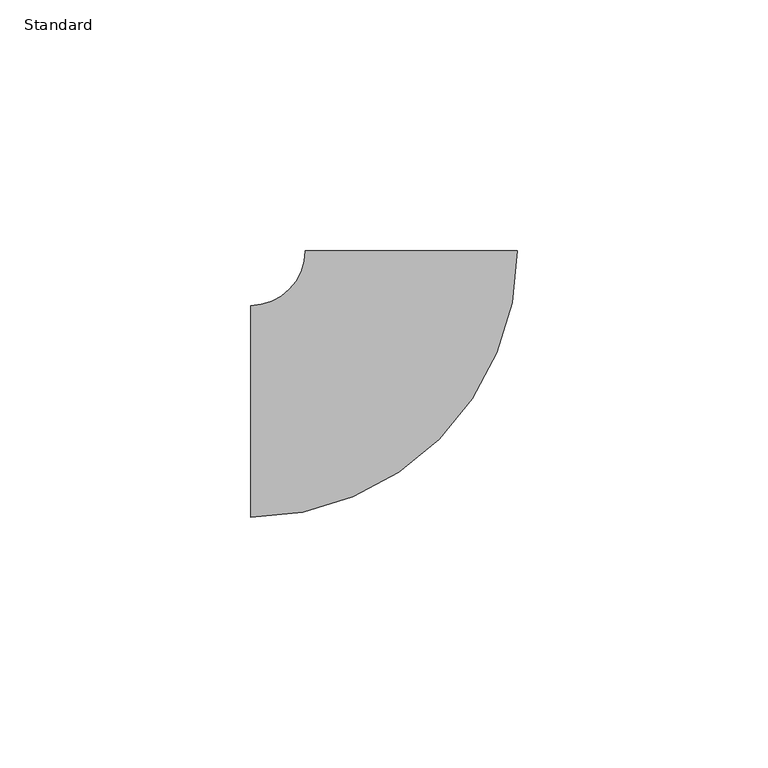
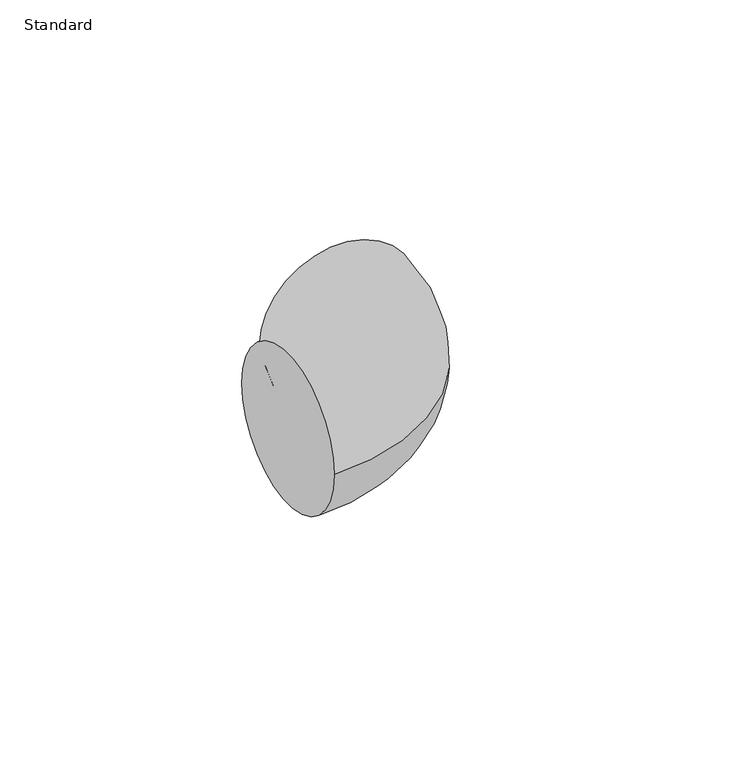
"""IFC4 building model written with IfcOpenShell, lengths in millimetres: pipe fitting geometry, Coude - Générique1 : Standard."""

from ifc_helpers import new_model, si_unit, point, frame, origin, place, context, project, spatial, circle_curve, ellipse_curve, trimmed, source, transform, mapped, element, save
from ifc_brep_helpers import plane_surface, revolved_surface, advanced_brep


def standard_ce3f984b(model_context):
    return source(origin(), model_context, "Body", "AdvancedBrep", [
        advanced_brep(
        [(-32.0, -21.1, 0.0), (-32.0, 21.1, 0.0), (21.1037945, 31.9974977, 0.0), (-21.0962052, 32.0025019, 0.0)],
        [
            (0, 1, circle_curve(frame((-32.0, 0.0, 0.0), z_axis=(-1.0, 0.0, 0.0), x_axis=(0.0, 1.0, 0.0)), 21.1)),
            (1, 0, circle_curve(frame((-32.0, 0.0, 0.0), z_axis=(-1.0, 0.0, 0.0), x_axis=(0.0, 1.0, 0.0)), 21.1)),
            (2, 3, circle_curve(frame((0.0037947, 31.9999998, 0.0), z_axis=(0.00011858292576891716, 0.9999999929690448, 0.0), x_axis=(-0.9999999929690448, 0.00011858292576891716, 0.0)), 21.1)),
            (3, 2, circle_curve(frame((0.0037947, 31.9999998, 0.0), z_axis=(0.00011858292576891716, 0.9999999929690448, 0.0), x_axis=(-0.9999999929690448, 0.00011858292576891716, 0.0)), 21.1)),
            (3, 1, circle_curve(frame((-32.0, 32.0037949, 0.0), z_axis=(0.0, 0.0, -1.0), x_axis=(0.0, -1.0, 0.0)), 10.9037949)),
            (0, 2, circle_curve(frame((-32.0, 32.0037949, 0.0), z_axis=(0.0, 0.0, 1.0), x_axis=(0.0, -1.0, 0.0)), 53.1037949)),
        ],
        [
            plane_surface(frame((-32.0, 0.0, 0.0), z_axis=(-1.0, 0.0, 0.0), x_axis=(0.0, 0.0, 1.0))),
            plane_surface(frame((0.0037947, 31.9999998, 0.0), z_axis=(0.0001185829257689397, 0.999999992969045, 0.0), x_axis=(0.0, 0.0, 1.0))),
            revolved_surface(trimmed(ellipse_curve(frame((-32.0, 0.0, 0.0), z_axis=(-1.0, 0.0, 0.0), x_axis=(0.0, 1.0, 0.0)), 21.1, 21.1), [point((-32.0, -21.1, 0.0))], [point((-32.0, 21.1, 0.0))], True, "CARTESIAN"), (-32.0, 32.0037949, 0.0), (0.0, 0.0, 1.0)),
            revolved_surface(trimmed(ellipse_curve(frame((-32.0, 0.0, 0.0), z_axis=(-1.0, 0.0, 0.0), x_axis=(0.0, 1.0, 0.0)), 21.1, 21.1), [point((-32.0, 21.1, 0.0))], [point((-32.0, -21.1, 0.0))], True, "CARTESIAN"), (-32.0, 32.0037949, 0.0), (0.0, 0.0, 1.0)),
        ],
        [
            (0, [[1, 2]]),
            (1, [[3, 4]]),
            (2, [[5, -1, 6, -4]]),
            (3, [[-6, -2, -5, -3]]),
        ],
    ),
    ])


if __name__ == "__main__":
    model = new_model("IFC4")
    model_context = context("Model", 3, world=origin())
    ifc_project = project(units=[si_unit("LENGTHUNIT", "METRE", prefix="MILLI")], contexts=[model_context])
    site = spatial("IfcSite", under=ifc_project)
    building = spatial("IfcBuilding", under=site)
    placement = place(None, origin())
    standard_shape = standard_ce3f984b(model_context)
    element("IfcPipeFitting", 1, ObjectType="Coude - Générique1 : Standard", at=placement, inside=building, context=model_context, shape_type="MappedRepresentation", body=[
        mapped(standard_shape, transform((0.0, 0.0, 0.0), x_axis=(1.0, 0.0, 0.0), y_axis=(0.0, 1.0, 0.0), z_axis=(0.0, 0.0, 1.0))),
    ])
    save(model, "model.ifc")
